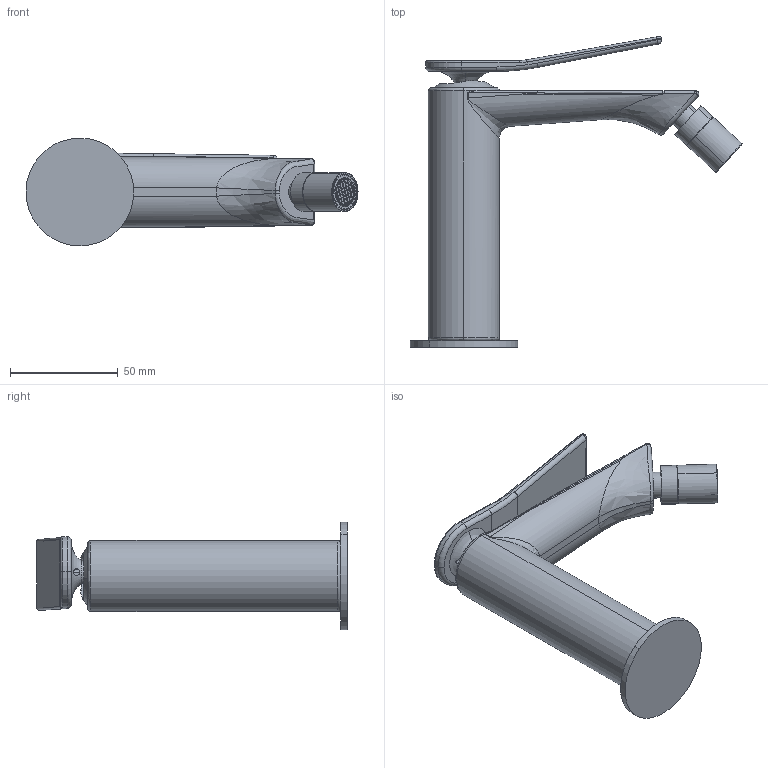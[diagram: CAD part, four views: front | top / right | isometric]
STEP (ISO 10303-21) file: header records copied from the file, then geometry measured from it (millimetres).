
FILE_DESCRIPTION (( 'STEP AP203' ), '1' );
FILE_NAME ('85401110 x architetti.STEP', '2026-04-07T15:38:18', ( '' ), ( '' ), 'SwSTEP 2.0', 'SolidWorks 2020', '' );
FILE_SCHEMA (( 'CONFIG_CONTROL_DESIGN' ));
Length unit declared in the file: millimetre
Products named in the file (1): 85401110 x architetti
Bounding box: 154.01 x 144.15 x 49.99 mm (x, y, z)
Surface area: 51554.7 mm2 (no closed solid volume)
Topology: 0 solids, 16 shells, 2136 faces, 5493 edges, 3367 vertices
Faces by surface type: plane 841, cylinder 760, bspline 421, cone 79, torus 29, sphere 6
Full cylindrical faces by diameter (mm): 15.1 x2
Entity records: 98353 total; most frequent: CARTESIAN_POINT 53092, ORIENTED_EDGE 10779, DIRECTION 7655, EDGE_CURVE 5446, VERTEX_POINT 3366, AXIS2_PLACEMENT_3D 2854, EDGE_LOOP 2201, FACE_OUTER_BOUND 2134
